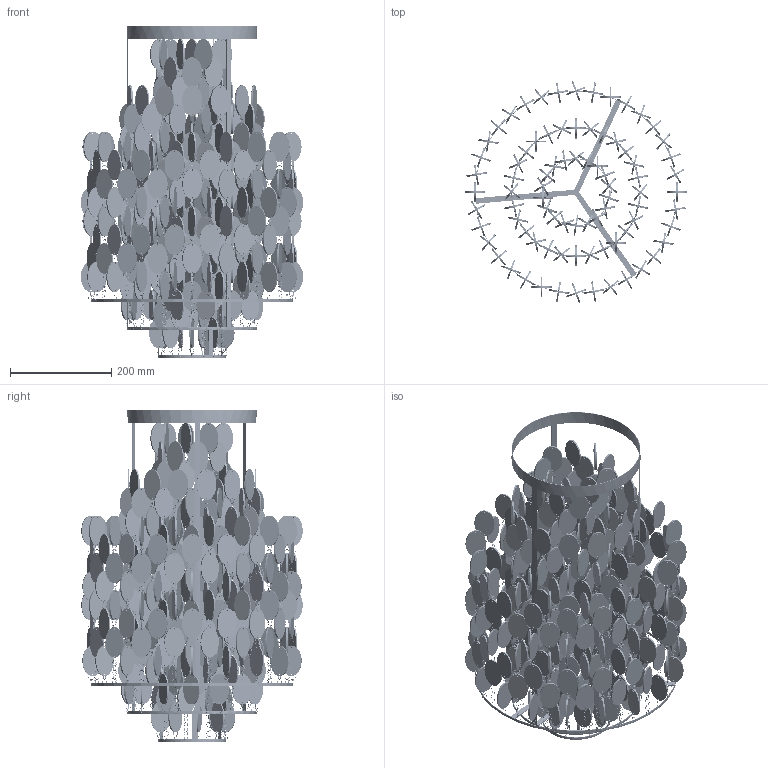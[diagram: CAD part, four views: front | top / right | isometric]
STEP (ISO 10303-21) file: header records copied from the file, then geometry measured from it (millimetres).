
FILE_DESCRIPTION (( 'STEP AP214' ), '1' );
FILE_NAME ('FUN 1TA table lamp.STEP', '2013-01-26T16:27:17', ( '' ), ( '' ), 'SwSTEP 2.0', 'SolidWorks 2013', '' );
FILE_SCHEMA (( 'AUTOMOTIVE_DESIGN' ));
Length unit declared in the file: millimetre
Products named in the file (10): k甦e 1 (1334); brik1 (1334); spring (1334); Frame for 1TA; FUN 1TA table lamp; k甦e 6 (1334); k甦e 5 (1334); k甦e 4 (1334); k甦e 3 (1334); k甦e 2 (1334)
Assembly tree (203 placements, depth 3):
  FUN 1TA table lamp
    Frame for 1TA
    k甦e 1 (1334)  x14
      spring (1334)
      brik1 (1334)
    k甦e 2 (1334)  x14
      spring (1334)
      brik1 (1334)
    k甦e 3 (1334)  x9
      spring (1334)
      brik1 (1334)
    k甦e 4 (1334)  x9
      spring (1334)
      brik1 (1334)
    k甦e 5 (1334)  x18
      spring (1334)
      brik1 (1334)
    k甦e 6 (1334)  x18
      spring (1334)
      brik1 (1334)
Bounding box: 439.09 x 437.31 x 655.5 mm (x, y, z)
Volume: 2639664.5 mm3; surface area: 2145051.3 mm2
Topology: 1533 solids, 1533 shells, 8172 faces, 15367 edges, 10239 vertices
Faces by surface type: plane 3110, bspline 3064, cylinder 1998
Entity records: 13115 total; most frequent: CARTESIAN_POINT 5160, ORIENTED_EDGE 1454, DIRECTION 1337, EDGE_CURVE 727, AXIS2_PLACEMENT_3D 520, VERTEX_POINT 479, EDGE_LOOP 400, B_SPLINE_CURVE_WITH_KNOTS 342
